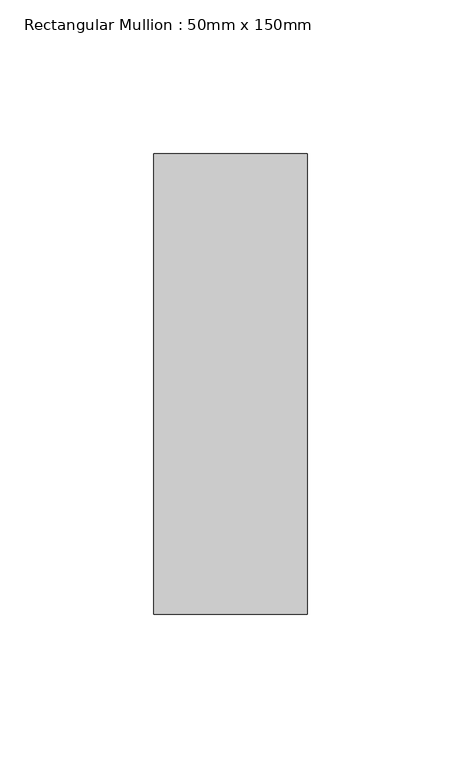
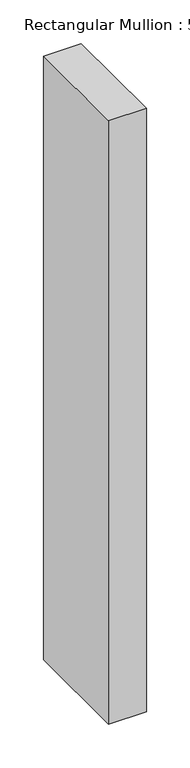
"""IFC4 building model written with IfcOpenShell, lengths in millimetres: member geometry, Rectangular Mullion : 50mm x 150mm."""

from ifc_helpers import new_model, si_unit, frame, origin, place, context, project, spatial, polyline, outline, extrude, source, transform, mapped, element, save


def rectangular_mullion_50mm_x_150mm_a376ce0f(model_context):
    return source(origin(), model_context, "Body", "SweptSolid", [
        extrude(outline(polyline([(25.0, 75.0), (25.0, -75.0), (-25.0, -75.0), (-25.0, 75.0), (25.0, 75.0)])), frame((0.0, 0.0, -845.9473687), z_axis=(0.0, 0.0, 1.0), x_axis=(1.0, 0.0, 0.0)), (0.0, 0.0, 1.0), 845.9473687),
    ])


if __name__ == "__main__":
    model = new_model("IFC4")
    model_context = context("Model", 3, world=origin())
    ifc_project = project(units=[si_unit("LENGTHUNIT", "METRE", prefix="MILLI")], contexts=[model_context])
    site = spatial("IfcSite", under=ifc_project)
    building = spatial("IfcBuilding", under=site)
    placement = place(None, origin())
    rectangular_mullion_50mm_x_150mm_shape = rectangular_mullion_50mm_x_150mm_a376ce0f(model_context)
    element("IfcMember", 1, ObjectType="Rectangular Mullion : 50mm x 150mm", at=placement, inside=building, context=model_context, shape_type="MappedRepresentation", body=[
        mapped(rectangular_mullion_50mm_x_150mm_shape, transform((0.0, 0.0, 0.0), x_axis=(1.0, 0.0, 0.0), y_axis=(0.0, 1.0, 0.0), z_axis=(0.0, 0.0, 1.0))),
    ])
    save(model, "model.ifc")
